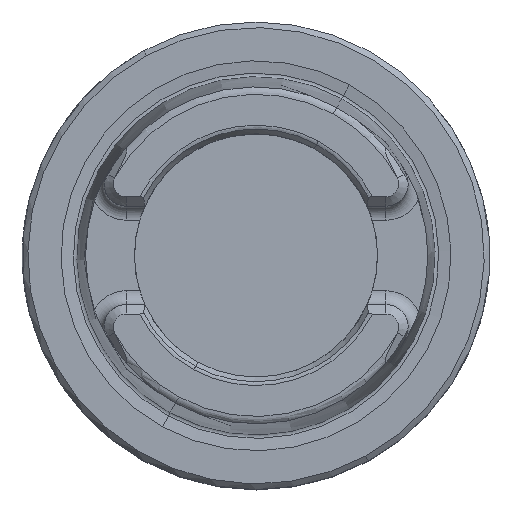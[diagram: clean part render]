
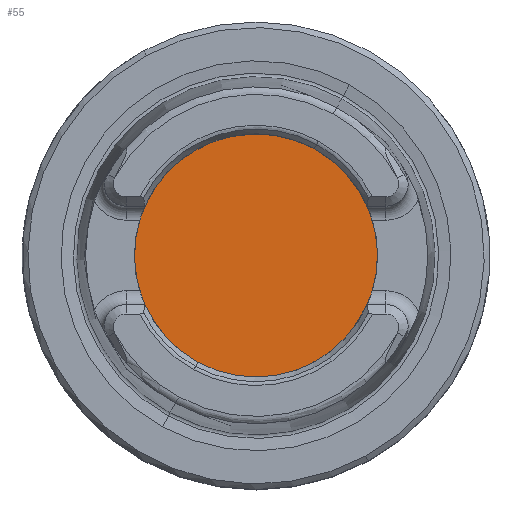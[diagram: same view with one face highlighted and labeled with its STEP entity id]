
A CAD part, top view. The second image highlights one B-rep face of the part: STEP entity #55.
In plain terms, the highlighted planar face has unit normal (0, 0, 1).
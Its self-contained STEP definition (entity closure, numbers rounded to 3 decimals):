
#35=AXIS2_PLACEMENT_3D('Plane Axis2P3D',#32,#33,#34) ;
#39=AXIS2_PLACEMENT_3D('Circle Axis2P3D',#37,#38,$) ;
#48=AXIS2_PLACEMENT_3D('Circle Axis2P3D',#46,#47,$) ;
#32=CARTESIAN_POINT('Axis2P3D Location',(0.,-11.8,15.)) ;
#37=CARTESIAN_POINT('Axis2P3D Location',(0.,0.,15.)) ;
#41=CARTESIAN_POINT('Vertex',(-6.233,-11.409,15.)) ;
#43=CARTESIAN_POINT('Vertex',(6.233,11.409,15.)) ;
#46=CARTESIAN_POINT('Axis2P3D Location',(0.,0.,15.)) ;
#33=DIRECTION('Axis2P3D Direction',(0.,0.,-1.)) ;
#34=DIRECTION('Axis2P3D XDirection',(-1.,0.,0.)) ;
#38=DIRECTION('Axis2P3D Direction',(0.,0.,-1.)) ;
#47=DIRECTION('Axis2P3D Direction',(0.,0.,-1.)) ;
#52=ORIENTED_EDGE('',*,*,#45,.T.) ;
#53=ORIENTED_EDGE('',*,*,#50,.T.) ;
#55=ADVANCED_FACE('NO_CUT',(#54),#36,.F.) ;
#40=CIRCLE('generated circle',#39,13.) ;
#49=CIRCLE('generated circle',#48,13.) ;
#45=EDGE_CURVE('',#42,#44,#40,.F.) ;
#50=EDGE_CURVE('',#44,#42,#49,.F.) ;
#51=EDGE_LOOP('',(#52,#53)) ;
#54=FACE_OUTER_BOUND('',#51,.T.) ;
#36=PLANE('',#35) ;
#42=VERTEX_POINT('',#41) ;
#44=VERTEX_POINT('',#43) ;
